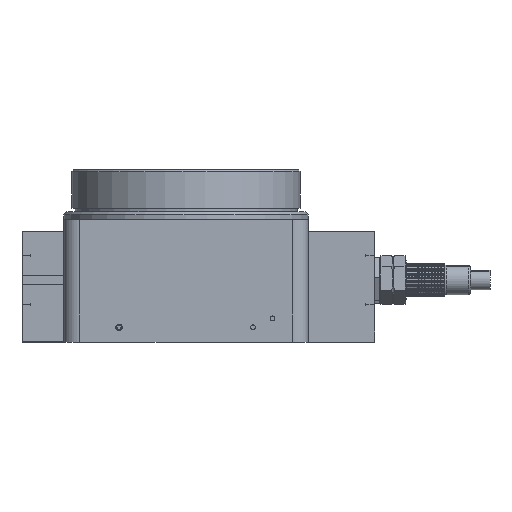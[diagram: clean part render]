
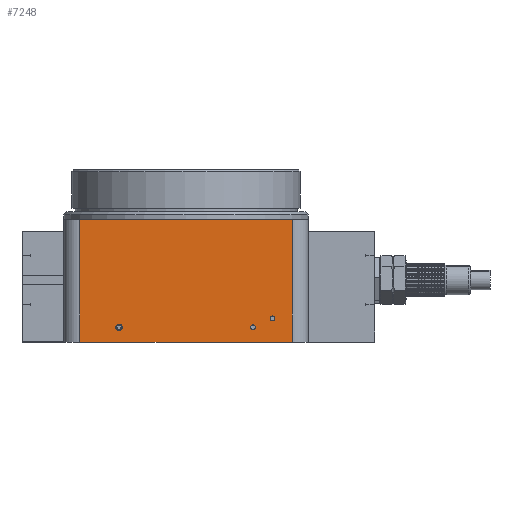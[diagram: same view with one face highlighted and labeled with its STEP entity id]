
A CAD part, front view. The second image highlights one B-rep face of the part: STEP entity #7248.
In plain terms, the highlighted planar face has unit normal (0, -1, 0).
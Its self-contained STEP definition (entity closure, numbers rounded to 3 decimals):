
#490 = ORIENTED_EDGE ( 'NONE', *, *, #5928, .F. ) ;
#736 = CARTESIAN_POINT ( 'NONE',  ( 75., 0., 75. ) ) ;
#959 = CIRCLE ( 'NONE', #5622, 1.5 ) ;
#2088 = CARTESIAN_POINT ( 'NONE',  ( 34., 0., 9. ) ) ;
#2321 = EDGE_CURVE ( 'NONE', #7584, #41399, #11439, .T. ) ;
#2393 = VERTEX_POINT ( 'NONE', #34814 ) ;
#2426 = CARTESIAN_POINT ( 'NONE',  ( 128., 0., 14.5 ) ) ;
#2497 = AXIS2_PLACEMENT_3D ( 'NONE', #22200, #19022, #25369 ) ;
#3254 = DIRECTION ( 'NONE',  ( 0., -1., 0. ) ) ;
#4259 = CARTESIAN_POINT ( 'NONE',  ( 116., 0., 7.5 ) ) ;
#4438 = AXIS2_PLACEMENT_3D ( 'NONE', #39344, #14986, #20152 ) ;
#4441 = LINE ( 'NONE', #40233, #32861 ) ;
#4539 = CARTESIAN_POINT ( 'NONE',  ( 0., 0., 75. ) ) ;
#4809 = ORIENTED_EDGE ( 'NONE', *, *, #31653, .T. ) ;
#5429 = VECTOR ( 'NONE', #20915, 1000. ) ;
#5579 = DIRECTION ( 'NONE',  ( 0., 0., -1. ) ) ;
#5622 = AXIS2_PLACEMENT_3D ( 'NONE', #40992, #9152, #5579 ) ;
#5928 = EDGE_CURVE ( 'NONE', #2393, #30622, #959, .T. ) ;
#6318 = CARTESIAN_POINT ( 'NONE',  ( 140., 0., 0. ) ) ;
#6550 = EDGE_LOOP ( 'NONE', ( #18247, #490 ) ) ;
#7248 = ADVANCED_FACE ( 'NONE', ( #31058, #29681, #27676, #11843 ), #7349, .F. ) ;
#7328 = CIRCLE ( 'NONE', #12661, 1.5 ) ;
#7349 = PLANE ( 'NONE',  #4438 ) ;
#7584 = VERTEX_POINT ( 'NONE', #22785 ) ;
#7594 = DIRECTION ( 'NONE',  ( 0., -1., 0. ) ) ;
#7730 = VERTEX_POINT ( 'NONE', #27409 ) ;
#7796 = CARTESIAN_POINT ( 'NONE',  ( 34., 0., 9. ) ) ;
#8142 = VERTEX_POINT ( 'NONE', #36069 ) ;
#8304 = CARTESIAN_POINT ( 'NONE',  ( 0., 0., 75. ) ) ;
#9152 = DIRECTION ( 'NONE',  ( 0., -1., 0. ) ) ;
#9469 = ORIENTED_EDGE ( 'NONE', *, *, #10772, .F. ) ;
#9771 = EDGE_CURVE ( 'NONE', #30622, #2393, #36830, .T. ) ;
#10772 = EDGE_CURVE ( 'NONE', #33996, #8142, #7328, .T. ) ;
#11240 = CARTESIAN_POINT ( 'NONE',  ( 10., 0., 0. ) ) ;
#11395 = ORIENTED_EDGE ( 'NONE', *, *, #11928, .F. ) ;
#11439 = LINE ( 'NONE', #8304, #19796 ) ;
#11701 = ORIENTED_EDGE ( 'NONE', *, *, #38791, .F. ) ;
#11843 = FACE_OUTER_BOUND ( 'NONE', #17564, .T. ) ;
#11928 = EDGE_CURVE ( 'NONE', #41399, #7730, #23896, .T. ) ;
#12661 = AXIS2_PLACEMENT_3D ( 'NONE', #2426, #3254, #16094 ) ;
#13887 = AXIS2_PLACEMENT_3D ( 'NONE', #31772, #35780, #22270 ) ;
#14519 = CIRCLE ( 'NONE', #36754, 1.5 ) ;
#14901 = DIRECTION ( 'NONE',  ( 0., -1., 0. ) ) ;
#14947 = LINE ( 'NONE', #18118, #35057 ) ;
#14977 = AXIS2_PLACEMENT_3D ( 'NONE', #7796, #7594, #36843 ) ;
#14986 = DIRECTION ( 'NONE',  ( 0., 1., 0. ) ) ;
#15153 = DIRECTION ( 'NONE',  ( 0., 0., 1. ) ) ;
#15489 = CARTESIAN_POINT ( 'NONE',  ( 34., 0., 10.5 ) ) ;
#16094 = DIRECTION ( 'NONE',  ( 0., 0., -1. ) ) ;
#17461 = DIRECTION ( 'NONE',  ( 0., 0., -1. ) ) ;
#17564 = EDGE_LOOP ( 'NONE', ( #30868, #4809, #11395, #26402, #34503 ) ) ;
#17960 = CARTESIAN_POINT ( 'NONE',  ( 0., 0., 0. ) ) ;
#18118 = CARTESIAN_POINT ( 'NONE',  ( 140., 0., 80. ) ) ;
#18247 = ORIENTED_EDGE ( 'NONE', *, *, #9771, .F. ) ;
#18779 = EDGE_CURVE ( 'NONE', #7584, #35314, #4441, .T. ) ;
#19022 = DIRECTION ( 'NONE',  ( 0., -1., 0. ) ) ;
#19796 = VECTOR ( 'NONE', #21100, 1000. ) ;
#20152 = DIRECTION ( 'NONE',  ( 0., 0., 1. ) ) ;
#20661 = VECTOR ( 'NONE', #33787, 1000. ) ;
#20915 = DIRECTION ( 'NONE',  ( 1., 0., 0. ) ) ;
#21100 = DIRECTION ( 'NONE',  ( 1., 0., 0. ) ) ;
#22200 = CARTESIAN_POINT ( 'NONE',  ( 116., 0., 9. ) ) ;
#22270 = DIRECTION ( 'NONE',  ( 0., 0., -1. ) ) ;
#22785 = CARTESIAN_POINT ( 'NONE',  ( 10., 0., 75. ) ) ;
#23171 = EDGE_CURVE ( 'NONE', #8142, #33996, #40159, .T. ) ;
#23896 = LINE ( 'NONE', #4539, #5429 ) ;
#24708 = LINE ( 'NONE', #17960, #20661 ) ;
#25369 = DIRECTION ( 'NONE',  ( 0., 0., -1. ) ) ;
#26402 = ORIENTED_EDGE ( 'NONE', *, *, #2321, .F. ) ;
#27128 = CIRCLE ( 'NONE', #14977, 1.5 ) ;
#27409 = CARTESIAN_POINT ( 'NONE',  ( 140., 0., 75. ) ) ;
#27676 = FACE_BOUND ( 'NONE', #6550, .T. ) ;
#29051 = VERTEX_POINT ( 'NONE', #6318 ) ;
#29681 = FACE_BOUND ( 'NONE', #35642, .T. ) ;
#30622 = VERTEX_POINT ( 'NONE', #4259 ) ;
#30868 = ORIENTED_EDGE ( 'NONE', *, *, #38372, .T. ) ;
#31058 = FACE_BOUND ( 'NONE', #38599, .T. ) ;
#31653 = EDGE_CURVE ( 'NONE', #29051, #7730, #14947, .T. ) ;
#31772 = CARTESIAN_POINT ( 'NONE',  ( 128., 0., 14.5 ) ) ;
#31944 = ORIENTED_EDGE ( 'NONE', *, *, #33439, .F. ) ;
#32417 = ORIENTED_EDGE ( 'NONE', *, *, #23171, .F. ) ;
#32861 = VECTOR ( 'NONE', #17461, 1000. ) ;
#33214 = CARTESIAN_POINT ( 'NONE',  ( 34., 0., 7.5 ) ) ;
#33439 = EDGE_CURVE ( 'NONE', #40858, #33872, #27128, .T. ) ;
#33787 = DIRECTION ( 'NONE',  ( 1., 0., 0. ) ) ;
#33872 = VERTEX_POINT ( 'NONE', #33214 ) ;
#33996 = VERTEX_POINT ( 'NONE', #40374 ) ;
#34503 = ORIENTED_EDGE ( 'NONE', *, *, #18779, .T. ) ;
#34814 = CARTESIAN_POINT ( 'NONE',  ( 116., 0., 10.5 ) ) ;
#35057 = VECTOR ( 'NONE', #15153, 1000. ) ;
#35314 = VERTEX_POINT ( 'NONE', #11240 ) ;
#35642 = EDGE_LOOP ( 'NONE', ( #11701, #31944 ) ) ;
#35780 = DIRECTION ( 'NONE',  ( 0., -1., 0. ) ) ;
#36069 = CARTESIAN_POINT ( 'NONE',  ( 128., 0., 16. ) ) ;
#36754 = AXIS2_PLACEMENT_3D ( 'NONE', #2088, #14901, #41463 ) ;
#36830 = CIRCLE ( 'NONE', #2497, 1.5 ) ;
#36843 = DIRECTION ( 'NONE',  ( 0., 0., -1. ) ) ;
#38372 = EDGE_CURVE ( 'NONE', #35314, #29051, #24708, .T. ) ;
#38599 = EDGE_LOOP ( 'NONE', ( #9469, #32417 ) ) ;
#38791 = EDGE_CURVE ( 'NONE', #33872, #40858, #14519, .T. ) ;
#39344 = CARTESIAN_POINT ( 'NONE',  ( 0., 0., 80. ) ) ;
#40159 = CIRCLE ( 'NONE', #13887, 1.5 ) ;
#40233 = CARTESIAN_POINT ( 'NONE',  ( 10., 0., 80. ) ) ;
#40374 = CARTESIAN_POINT ( 'NONE',  ( 128., 0., 13. ) ) ;
#40858 = VERTEX_POINT ( 'NONE', #15489 ) ;
#40992 = CARTESIAN_POINT ( 'NONE',  ( 116., 0., 9. ) ) ;
#41399 = VERTEX_POINT ( 'NONE', #736 ) ;
#41463 = DIRECTION ( 'NONE',  ( 0., 0., -1. ) ) ;
